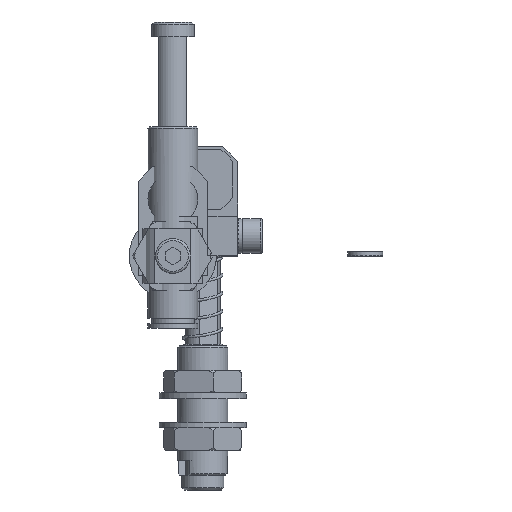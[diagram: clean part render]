
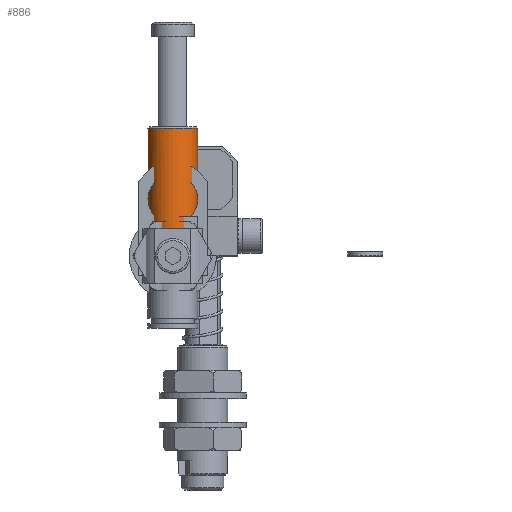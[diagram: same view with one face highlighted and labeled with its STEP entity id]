
A CAD part, left-side view. The second image highlights one B-rep face of the part: STEP entity #886.
In plain terms, the highlighted cylindrical face has radius 5 mm (diameter 10 mm), a full revolution.
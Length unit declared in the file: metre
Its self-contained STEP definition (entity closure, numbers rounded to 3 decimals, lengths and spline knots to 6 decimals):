
#886 = ADVANCED_FACE( '', ( #1783, #1784 ), #1785, .T. );
#1783 = FACE_OUTER_BOUND( '', #2629, .T. );
#1784 = FACE_OUTER_BOUND( '', #2630, .T. );
#1785 = CYLINDRICAL_SURFACE( '', #2631, 0.005 );
#2629 = EDGE_LOOP( '', ( #5230, #5231, #5232, #5233, #5234, #5235, #5236, #5237 ) );
#2630 = EDGE_LOOP( '', ( #5238 ) );
#2631 = AXIS2_PLACEMENT_3D( '', #5239, #5240, #5241 );
#5230 = ORIENTED_EDGE( '', *, *, #6492, .F. );
#5231 = ORIENTED_EDGE( '', *, *, #6506, .F. );
#5232 = ORIENTED_EDGE( '', *, *, #6502, .F. );
#5233 = ORIENTED_EDGE( '', *, *, #6489, .T. );
#5234 = ORIENTED_EDGE( '', *, *, #6500, .F. );
#5235 = ORIENTED_EDGE( '', *, *, #6508, .F. );
#5236 = ORIENTED_EDGE( '', *, *, #6495, .F. );
#5237 = ORIENTED_EDGE( '', *, *, #6499, .T. );
#5238 = ORIENTED_EDGE( '', *, *, #6514, .T. );
#5239 = CARTESIAN_POINT( '', ( 0., 0., 0.026 ) );
#5240 = DIRECTION( '', ( 0., 0., 1. ) );
#5241 = DIRECTION( '', ( -1., 0., 0. ) );
#6489 = EDGE_CURVE( '', #7890, #7887, #7891, .F. );
#6492 = EDGE_CURVE( '', #7895, #7896, #7897, .T. );
#6495 = EDGE_CURVE( '', #7899, #7901, #7902, .F. );
#6499 = EDGE_CURVE( '', #7899, #7896, #7908, .F. );
#6500 = EDGE_CURVE( '', #7909, #7887, #7910, .T. );
#6502 = EDGE_CURVE( '', #7890, #7912, #7913, .F. );
#6506 = EDGE_CURVE( '', #7912, #7895, #7919, .F. );
#6508 = EDGE_CURVE( '', #7901, #7909, #7921, .F. );
#6514 = EDGE_CURVE( '', #7929, #7929, #7930, .T. );
#7887 = VERTEX_POINT( '', #9834 );
#7890 = VERTEX_POINT( '', #9840 );
#7891 = CIRCLE( '', #9841, 0.005 );
#7895 = VERTEX_POINT( '', #9848 );
#7896 = VERTEX_POINT( '', #9849 );
#7897 = LINE( '', #9850, #9851 );
#7899 = VERTEX_POINT( '', #9856 );
#7901 = VERTEX_POINT( '', #9861 );
#7902 = LINE( '', #9862, #9863 );
#7908 = CIRCLE( '', #9872, 0.005 );
#7909 = VERTEX_POINT( '', #9873 );
#7910 = LINE( '', #9874, #9875 );
#7912 = VERTEX_POINT( '', #9878 );
#7913 = LINE( '', #9879, #9880 );
#7919 = CIRCLE( '', #9889, 0.005 );
#7921 = CIRCLE( '', #9891, 0.005 );
#7929 = VERTEX_POINT( '', #9899 );
#7930 = CIRCLE( '', #9900, 0.005 );
#9834 = CARTESIAN_POINT( '', ( 0.00285, 0.004108, 0.0003 ) );
#9840 = CARTESIAN_POINT( '', ( 0.00285, -0.004108, 0.0003 ) );
#9841 = AXIS2_PLACEMENT_3D( '', #11370, #11371, #11372 );
#9848 = CARTESIAN_POINT( '', ( -0.00285, -0.004108, 0.003 ) );
#9849 = CARTESIAN_POINT( '', ( -0.00285, -0.004108, 0.0003 ) );
#9850 = CARTESIAN_POINT( '', ( -0.00285, -0.004108, 0.026 ) );
#9851 = VECTOR( '', #11376, 1. );
#9856 = CARTESIAN_POINT( '', ( -0.00285, 0.004108, 0.0003 ) );
#9861 = CARTESIAN_POINT( '', ( -0.00285, 0.004108, 0.003 ) );
#9862 = CARTESIAN_POINT( '', ( -0.00285, 0.004108, 0.026 ) );
#9863 = VECTOR( '', #11377, 1. );
#9872 = AXIS2_PLACEMENT_3D( '', #11381, #11382, #11383 );
#9873 = CARTESIAN_POINT( '', ( 0.00285, 0.004108, 0.003 ) );
#9874 = CARTESIAN_POINT( '', ( 0.00285, 0.004108, 0.026 ) );
#9875 = VECTOR( '', #11384, 1. );
#9878 = CARTESIAN_POINT( '', ( 0.00285, -0.004108, 0.003 ) );
#9879 = CARTESIAN_POINT( '', ( 0.00285, -0.004108, 0.026 ) );
#9880 = VECTOR( '', #11386, 1. );
#9889 = AXIS2_PLACEMENT_3D( '', #11390, #11391, #11392 );
#9891 = AXIS2_PLACEMENT_3D( '', #11396, #11397, #11398 );
#9899 = CARTESIAN_POINT( '', ( -0.005, 0., 0.0257 ) );
#9900 = AXIS2_PLACEMENT_3D( '', #11414, #11415, #11416 );
#11370 = CARTESIAN_POINT( '', ( 0., 0., 0.0003 ) );
#11371 = DIRECTION( '', ( 0., 0., -1. ) );
#11372 = DIRECTION( '', ( -1., 0., 0. ) );
#11376 = DIRECTION( '', ( 0., 0., -1. ) );
#11377 = DIRECTION( '', ( 0., 0., -1. ) );
#11381 = CARTESIAN_POINT( '', ( 0., 0., 0.0003 ) );
#11382 = DIRECTION( '', ( 0., 0., -1. ) );
#11383 = DIRECTION( '', ( -1., 0., 0. ) );
#11384 = DIRECTION( '', ( 0., 0., -1. ) );
#11386 = DIRECTION( '', ( 0., 0., -1. ) );
#11390 = CARTESIAN_POINT( '', ( 0., 0., 0.003 ) );
#11391 = DIRECTION( '', ( 0., 0., 1. ) );
#11392 = DIRECTION( '', ( 1., 0., 0. ) );
#11396 = CARTESIAN_POINT( '', ( 0., 0., 0.003 ) );
#11397 = DIRECTION( '', ( 0., 0., 1. ) );
#11398 = DIRECTION( '', ( 1., 0., 0. ) );
#11414 = CARTESIAN_POINT( '', ( 0., 0., 0.0257 ) );
#11415 = DIRECTION( '', ( 0., 0., -1. ) );
#11416 = DIRECTION( '', ( -1., 0., 0. ) );
